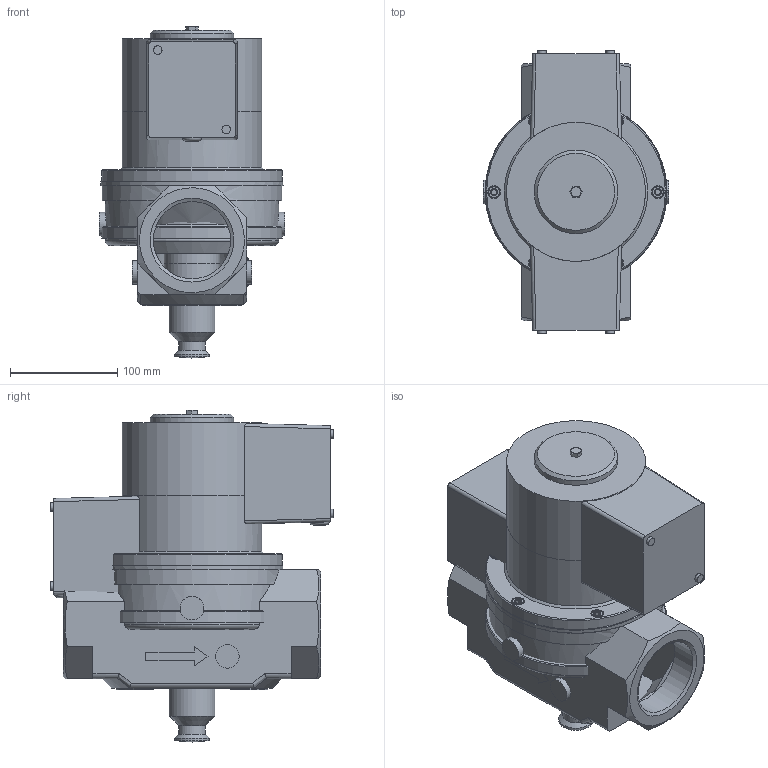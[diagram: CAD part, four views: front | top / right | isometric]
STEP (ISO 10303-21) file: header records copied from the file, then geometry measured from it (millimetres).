
FILE_DESCRIPTION( ( 'Unknown' ), '1' );
FILE_NAME( 'D:/Wyroby/Widoki gabarytowe/Zawory ZEA/ZEA_65/ZEA_65.stp', 'Unknown', ( 'Unknown' ), ( 'Unknown' ), 'XStep 1.0', 'Unknown', ' ' );
FILE_SCHEMA( ( 'CONFIG_CONTROL_DESIGN' ) );
Length unit declared in the file: millimetre
Products named in the file (36): Assem1; Wa_054_01_01; Wa_053_01_01bez_korków; Wa_054_01_00; Wa_053_01_02; Wa_091_01_02; Wa_053_01_01bez_gniazda; Wa_053_01_01_001gotowe; Wa_053_01_02_001zaci從i黎y; Wa_053_01_02_003zaci從i黎a; Wa_053_01_02_002; Wa_091_01_03got.; Wa_031_01_05_001got; Wa_091_01_02_001got.; Wa_091_01_02_002got.; Ko³ek 6x50; Wa_031_01_00_006; Wa_053_01_09; Wa_031_01_00_007; Wa_054_01_00_001; Wa_091_01_00_002; Wa_091_01_00_005; Œ-006m6x12szeœc.; Wa_054_01_00_002彡i從i黎a; Œ-008ImbusM6x16; T-026; K-006got.; Oring138x3彡i從i黎y; Wa_091_01_04_010; Cewka_80
Bounding box: 173 x 264 x 310 mm (x, y, z)
Volume: 9664617.4 mm3; surface area: 1915440 mm2
Topology: 102 solids, 114 shells, 1886 faces, 4161 edges, 2698 vertices
Faces by surface type: plane 961, cylinder 511, cone 354, torus 32, bspline 19, sphere 9
Full cylindrical faces by diameter (mm): 2 x5, 2.1 x8, 2.5 x10, 4.917 x28, 6 x29, 6.2 x10, 6.5 x3, 6.6 x18, 8 x8, 10 x26, 11 x18, 22 x16, 25 x4, 26 x3, 30 x3, 32 x4, 32.2 x8, 40 x4, 41 x3, 42.8 x4, 43 x4, 43.7 x12, 45 x4, 46 x8, 46.6 x8, 46.917 x8, 48 x8, 48.317 x8, 49 x4, 51 x4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
Entity records: 17362 total; most frequent: CARTESIAN_POINT 5181, DIRECTION 2270, ORIENTED_EDGE 1746, AXIS2_PLACEMENT_3D 963, EDGE_CURVE 873, EDGE_LOOP 848, VERTEX_POINT 690, FACE_OUTER_BOUND 653
